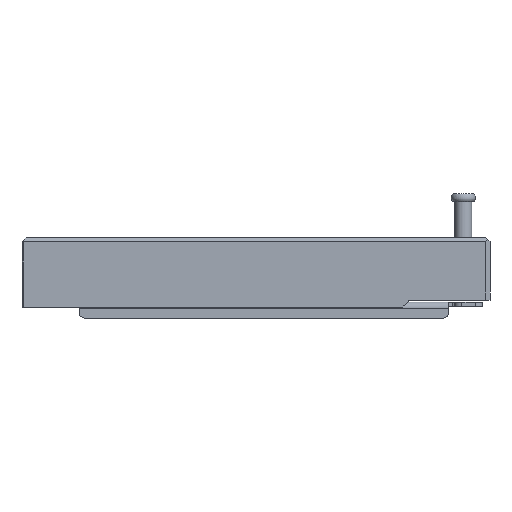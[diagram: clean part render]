
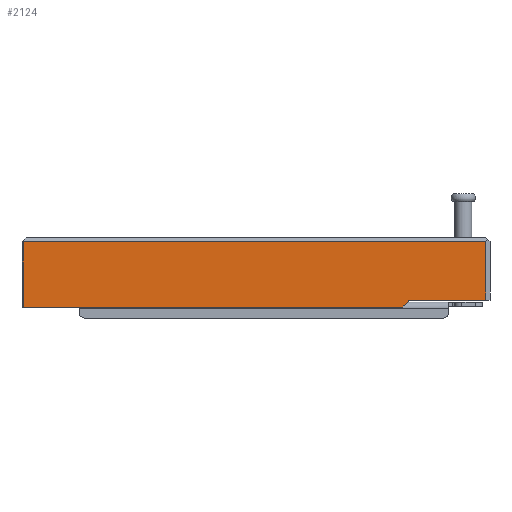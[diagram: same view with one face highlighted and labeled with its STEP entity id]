
A CAD part, left-side view. The second image highlights one B-rep face of the part: STEP entity #2124.
In plain terms, the highlighted planar face has unit normal (-1, 0, 0).
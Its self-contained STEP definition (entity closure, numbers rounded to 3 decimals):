
#1340=LINE('',#7395,#1563);
#1345=LINE('',#7408,#1568);
#1346=LINE('',#7410,#1569);
#1357=LINE('',#7459,#1580);
#1365=LINE('',#7475,#1588);
#1368=LINE('',#7481,#1591);
#1369=LINE('',#7483,#1592);
#1563=VECTOR('',#5327,1.);
#1568=VECTOR('',#5332,1.);
#1569=VECTOR('',#5335,1.);
#1580=VECTOR('',#5352,1.);
#1588=VECTOR('',#5364,1.);
#1591=VECTOR('',#5369,1.);
#1592=VECTOR('',#5370,1.);
#2124=ADVANCED_FACE('',(#2366),#2220,.T.);
#2220=PLANE('',#4869);
#2366=FACE_OUTER_BOUND('',#2559,.T.);
#2559=EDGE_LOOP('',(#3489,#3490,#3491,#3492,#3493,#3494,#3495));
#3489=ORIENTED_EDGE('',*,*,#4579,.F.);
#3490=ORIENTED_EDGE('',*,*,#4558,.F.);
#3491=ORIENTED_EDGE('',*,*,#4564,.T.);
#3492=ORIENTED_EDGE('',*,*,#4563,.T.);
#3493=ORIENTED_EDGE('',*,*,#4590,.T.);
#3494=ORIENTED_EDGE('',*,*,#4591,.T.);
#3495=ORIENTED_EDGE('',*,*,#4587,.F.);
#4047=VERTEX_POINT('',#7378);
#4048=VERTEX_POINT('',#7394);
#4049=VERTEX_POINT('',#7401);
#4052=VERTEX_POINT('',#7407);
#4060=VERTEX_POINT('',#7460);
#4066=VERTEX_POINT('',#7476);
#4068=VERTEX_POINT('',#7482);
#4558=EDGE_CURVE('',#4048,#4047,#1340,.T.);
#4563=EDGE_CURVE('',#4049,#4052,#1345,.T.);
#4564=EDGE_CURVE('',#4048,#4049,#1346,.T.);
#4579=EDGE_CURVE('',#4047,#4060,#1357,.T.);
#4587=EDGE_CURVE('',#4060,#4066,#1365,.T.);
#4590=EDGE_CURVE('',#4052,#4068,#1368,.T.);
#4591=EDGE_CURVE('',#4068,#4066,#1369,.T.);
#4869=AXIS2_PLACEMENT_3D('',#7484,#5371,#5372);
#5327=DIRECTION('',(0.,0.707,-0.707));
#5332=DIRECTION('',(0.,-1.,0.));
#5335=DIRECTION('',(0.,0.,1.));
#5352=DIRECTION('',(0.,1.,0.));
#5364=DIRECTION('',(0.,0.,1.));
#5369=DIRECTION('',(0.,0.,1.));
#5370=DIRECTION('',(0.,1.,0.));
#5371=DIRECTION('',(-1.,0.,0.));
#5372=DIRECTION('',(0.,0.,-1.));
#7378=CARTESIAN_POINT('',(-64.,-4.955,-5.275));
#7394=CARTESIAN_POINT('',(-64.,-7.755,-2.475));
#7395=CARTESIAN_POINT('',(-64.,31.07,-41.3));
#7401=CARTESIAN_POINT('',(-64.,-7.755,-1.775));
#7407=CARTESIAN_POINT('',(-64.,-45.755,-1.775));
#7408=CARTESIAN_POINT('',(-64.,-7.755,-1.775));
#7410=CARTESIAN_POINT('',(-64.,-7.755,-1.775));
#7459=CARTESIAN_POINT('',(-64.,67.095,-5.275));
#7460=CARTESIAN_POINT('',(-64.,181.445,-5.275));
#7475=CARTESIAN_POINT('',(-64.,181.445,-5.275));
#7476=CARTESIAN_POINT('',(-64.,181.445,26.725));
#7481=CARTESIAN_POINT('',(-64.,-45.755,-5.275));
#7482=CARTESIAN_POINT('',(-64.,-45.755,26.725));
#7483=CARTESIAN_POINT('',(-64.,67.095,26.725));
#7484=CARTESIAN_POINT('',(-64.,67.095,-5.275));
